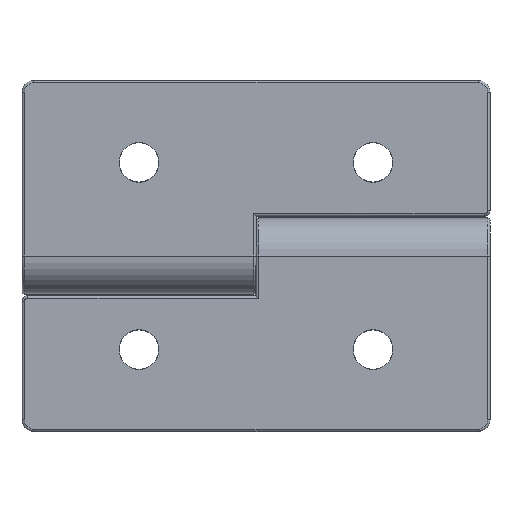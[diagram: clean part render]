
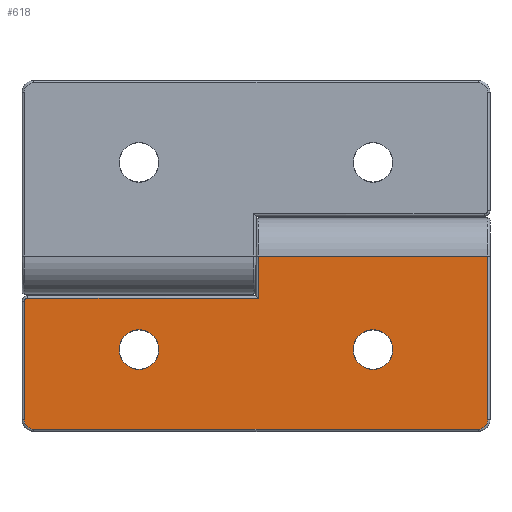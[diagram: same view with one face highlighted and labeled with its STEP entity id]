
A CAD part, front view. The second image highlights one B-rep face of the part: STEP entity #618.
In plain terms, the highlighted planar face has unit normal (0, -1, 0).
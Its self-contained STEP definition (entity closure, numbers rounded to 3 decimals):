
#252 = ORIENTED_EDGE ( 'NONE', *, *, #748, .T. ) ;
#253 = EDGE_CURVE ( 'NONE', #257, #267, #1187, .T. ) ;
#254 = EDGE_CURVE ( 'NONE', #259, #257, #1178, .T. ) ;
#255 = ORIENTED_EDGE ( 'NONE', *, *, #634, .T. ) ;
#256 = EDGE_CURVE ( 'NONE', #623, #619, #1170, .T. ) ;
#257 = VERTEX_POINT ( 'NONE', #1185 ) ;
#258 = ORIENTED_EDGE ( 'NONE', *, *, #260, .T. ) ;
#259 = VERTEX_POINT ( 'NONE', #1167 ) ;
#260 = EDGE_CURVE ( 'NONE', #619, #259, #1162, .T. ) ;
#262 = VERTEX_POINT ( 'NONE', #1163 ) ;
#265 = VERTEX_POINT ( 'NONE', #1161 ) ;
#266 = ORIENTED_EDGE ( 'NONE', *, *, #254, .T. ) ;
#267 = VERTEX_POINT ( 'NONE', #1166 ) ;
#272 = ORIENTED_EDGE ( 'NONE', *, *, #256, .T. ) ;
#274 = ORIENTED_EDGE ( 'NONE', *, *, #277, .T. ) ;
#275 = EDGE_CURVE ( 'NONE', #267, #265, #1160, .T. ) ;
#277 = EDGE_CURVE ( 'NONE', #262, #549, #1211, .T. ) ;
#279 = ORIENTED_EDGE ( 'NONE', *, *, #275, .T. ) ;
#280 = ORIENTED_EDGE ( 'NONE', *, *, #281, .T. ) ;
#281 = EDGE_CURVE ( 'NONE', #265, #262, #1173, .T. ) ;
#547 = EDGE_CURVE ( 'NONE', #549, #562, #1755, .T. ) ;
#549 = VERTEX_POINT ( 'NONE', #1756 ) ;
#562 = VERTEX_POINT ( 'NONE', #1795 ) ;
#615 = ORIENTED_EDGE ( 'NONE', *, *, #750, .T. ) ;
#617 = ORIENTED_EDGE ( 'NONE', *, *, #762, .T. ) ;
#618 = ADVANCED_FACE ( 'NONE', ( #1868, #1867, #1864 ), #1875, .F. ) ;
#619 = VERTEX_POINT ( 'NONE', #1881 ) ;
#620 = EDGE_LOOP ( 'NONE', ( #615, #624 ) ) ;
#621 = ORIENTED_EDGE ( 'NONE', *, *, #547, .T. ) ;
#622 = ORIENTED_EDGE ( 'NONE', *, *, #253, .T. ) ;
#623 = VERTEX_POINT ( 'NONE', #1876 ) ;
#624 = ORIENTED_EDGE ( 'NONE', *, *, #754, .T. ) ;
#625 = EDGE_LOOP ( 'NONE', ( #621, #255, #272, #258, #266, #622, #279, #280, #274 ) ) ;
#630 = EDGE_LOOP ( 'NONE', ( #252, #617 ) ) ;
#634 = EDGE_CURVE ( 'NONE', #562, #623, #1861, .T. ) ;
#697 = VERTEX_POINT ( 'NONE', #2043 ) ;
#701 = VERTEX_POINT ( 'NONE', #2030 ) ;
#714 = VERTEX_POINT ( 'NONE', #2067 ) ;
#747 = VERTEX_POINT ( 'NONE', #2145 ) ;
#748 = EDGE_CURVE ( 'NONE', #701, #747, #2096, .T. ) ;
#750 = EDGE_CURVE ( 'NONE', #697, #714, #2109, .T. ) ;
#754 = EDGE_CURVE ( 'NONE', #714, #697, #2132, .T. ) ;
#762 = EDGE_CURVE ( 'NONE', #747, #701, #2167, .T. ) ;
#1159 = CARTESIAN_POINT ( 'NONE',  ( 0.5, -3.25, -3.9 ) ) ;
#1160 = LINE ( 'NONE', #1208, #1207 ) ;
#1161 = CARTESIAN_POINT ( 'NONE',  ( 39., -3.25, -14.8 ) ) ;
#1162 = CIRCLE ( 'NONE', #1168, 0.3 ) ;
#1163 = CARTESIAN_POINT ( 'NONE',  ( 39.8, -3.25, -14. ) ) ;
#1164 = DIRECTION ( 'NONE',  ( -1., 0., 0. ) ) ;
#1165 = VECTOR ( 'NONE', #1164, 1000. ) ;
#1166 = CARTESIAN_POINT ( 'NONE',  ( 1., -3.25, -14.8 ) ) ;
#1167 = CARTESIAN_POINT ( 'NONE',  ( 0.2, -3.25, -3.9 ) ) ;
#1168 = AXIS2_PLACEMENT_3D ( 'NONE', #1159, #1216, #1215 ) ;
#1169 = CARTESIAN_POINT ( 'NONE',  ( 40., -3.25, -3.6 ) ) ;
#1170 = LINE ( 'NONE', #1169, #1165 ) ;
#1171 = DIRECTION ( 'NONE',  ( 0., 0., -1. ) ) ;
#1172 = VECTOR ( 'NONE', #1171, 1000. ) ;
#1173 = CIRCLE ( 'NONE', #1210, 0.8 ) ;
#1174 = DIRECTION ( 'NONE',  ( 0., 0., 1. ) ) ;
#1175 = DIRECTION ( 'NONE',  ( 0., -1., 0. ) ) ;
#1176 = CARTESIAN_POINT ( 'NONE',  ( 1., -3.25, -14. ) ) ;
#1177 = CARTESIAN_POINT ( 'NONE',  ( 0.2, -3.25, 0. ) ) ;
#1178 = LINE ( 'NONE', #1177, #1172 ) ;
#1179 = AXIS2_PLACEMENT_3D ( 'NONE', #1176, #1175, #1174 ) ;
#1185 = CARTESIAN_POINT ( 'NONE',  ( 0.2, -3.25, -14. ) ) ;
#1187 = CIRCLE ( 'NONE', #1179, 0.8 ) ;
#1196 = DIRECTION ( 'NONE',  ( 0., 0., 1. ) ) ;
#1197 = DIRECTION ( 'NONE',  ( 0., -1., 0. ) ) ;
#1201 = DIRECTION ( 'NONE',  ( 0., 0., 1. ) ) ;
#1202 = VECTOR ( 'NONE', #1201, 1000. ) ;
#1205 = CARTESIAN_POINT ( 'NONE',  ( 39.8, -3.25, 0. ) ) ;
#1206 = DIRECTION ( 'NONE',  ( 1., 0., 0. ) ) ;
#1207 = VECTOR ( 'NONE', #1206, 1000. ) ;
#1208 = CARTESIAN_POINT ( 'NONE',  ( 40., -3.25, -14.8 ) ) ;
#1209 = CARTESIAN_POINT ( 'NONE',  ( 39., -3.25, -14. ) ) ;
#1210 = AXIS2_PLACEMENT_3D ( 'NONE', #1209, #1197, #1196 ) ;
#1211 = LINE ( 'NONE', #1205, #1202 ) ;
#1215 = DIRECTION ( 'NONE',  ( 0., 0., 1. ) ) ;
#1216 = DIRECTION ( 'NONE',  ( 0., -1., 0. ) ) ;
#1752 = DIRECTION ( 'NONE',  ( -1., 0., 0. ) ) ;
#1753 = VECTOR ( 'NONE', #1752, 1000. ) ;
#1754 = CARTESIAN_POINT ( 'NONE',  ( 40., -3.25, 0. ) ) ;
#1755 = LINE ( 'NONE', #1754, #1753 ) ;
#1756 = CARTESIAN_POINT ( 'NONE',  ( 39.8, -3.25, 0. ) ) ;
#1795 = CARTESIAN_POINT ( 'NONE',  ( 20.2, -3.25, 0. ) ) ;
#1861 = LINE ( 'NONE', #1917, #1927 ) ;
#1864 = FACE_OUTER_BOUND ( 'NONE', #625, .T. ) ;
#1867 = FACE_BOUND ( 'NONE', #620, .T. ) ;
#1868 = FACE_BOUND ( 'NONE', #630, .T. ) ;
#1872 = AXIS2_PLACEMENT_3D ( 'NONE', #1930, #1929, #1928 ) ;
#1875 = PLANE ( 'NONE',  #1872 ) ;
#1876 = CARTESIAN_POINT ( 'NONE',  ( 20.2, -3.25, -3.6 ) ) ;
#1881 = CARTESIAN_POINT ( 'NONE',  ( 0.5, -3.25, -3.6 ) ) ;
#1916 = DIRECTION ( 'NONE',  ( 0., 0., -1. ) ) ;
#1917 = CARTESIAN_POINT ( 'NONE',  ( 20.2, -3.25, 0. ) ) ;
#1927 = VECTOR ( 'NONE', #1916, 1000. ) ;
#1928 = DIRECTION ( 'NONE',  ( 0., 0., 1. ) ) ;
#1929 = DIRECTION ( 'NONE',  ( 0., 1., 0. ) ) ;
#1930 = CARTESIAN_POINT ( 'NONE',  ( 40., -3.25, 0. ) ) ;
#2030 = CARTESIAN_POINT ( 'NONE',  ( 10., -3.25, -6.302 ) ) ;
#2043 = CARTESIAN_POINT ( 'NONE',  ( 30., -3.25, -6.302 ) ) ;
#2067 = CARTESIAN_POINT ( 'NONE',  ( 30., -3.25, -9.698 ) ) ;
#2096 = CIRCLE ( 'NONE', #2119, 1.698 ) ;
#2109 = CIRCLE ( 'NONE', #2133, 1.698 ) ;
#2119 = AXIS2_PLACEMENT_3D ( 'NONE', #2136, #2135, #2134 ) ;
#2123 = AXIS2_PLACEMENT_3D ( 'NONE', #2137, #2125, #2176 ) ;
#2125 = DIRECTION ( 'NONE',  ( 0., 1., 0. ) ) ;
#2127 = DIRECTION ( 'NONE',  ( 0., 0., 1. ) ) ;
#2128 = DIRECTION ( 'NONE',  ( 0., 1., 0. ) ) ;
#2129 = CARTESIAN_POINT ( 'NONE',  ( 30., -3.25, -8. ) ) ;
#2132 = CIRCLE ( 'NONE', #2123, 1.698 ) ;
#2133 = AXIS2_PLACEMENT_3D ( 'NONE', #2129, #2128, #2127 ) ;
#2134 = DIRECTION ( 'NONE',  ( 0., 0., 1. ) ) ;
#2135 = DIRECTION ( 'NONE',  ( 0., 1., 0. ) ) ;
#2136 = CARTESIAN_POINT ( 'NONE',  ( 10., -3.25, -8. ) ) ;
#2137 = CARTESIAN_POINT ( 'NONE',  ( 30., -3.25, -8. ) ) ;
#2145 = CARTESIAN_POINT ( 'NONE',  ( 10., -3.25, -9.698 ) ) ;
#2162 = DIRECTION ( 'NONE',  ( 0., 0., 1. ) ) ;
#2163 = DIRECTION ( 'NONE',  ( 0., 1., 0. ) ) ;
#2164 = CARTESIAN_POINT ( 'NONE',  ( 10., -3.25, -8. ) ) ;
#2165 = AXIS2_PLACEMENT_3D ( 'NONE', #2164, #2163, #2162 ) ;
#2167 = CIRCLE ( 'NONE', #2165, 1.698 ) ;
#2176 = DIRECTION ( 'NONE',  ( 0., 0., 1. ) ) ;
